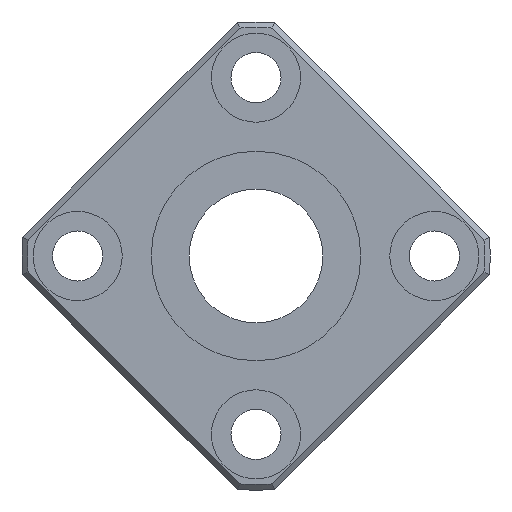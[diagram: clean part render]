
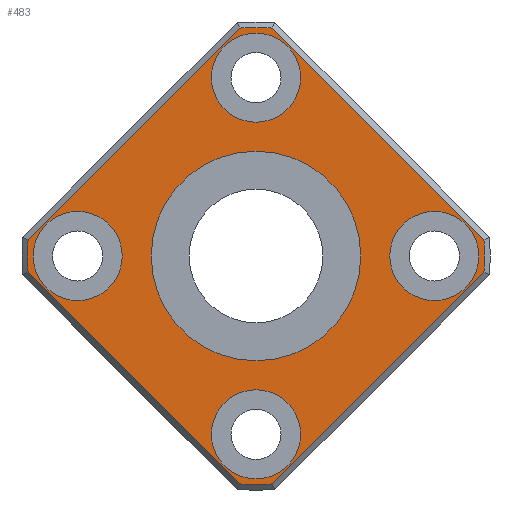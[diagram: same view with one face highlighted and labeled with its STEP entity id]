
A CAD part, left-side view. The second image highlights one B-rep face of the part: STEP entity #483.
In plain terms, the highlighted planar face has unit normal (-1, 0, 0).
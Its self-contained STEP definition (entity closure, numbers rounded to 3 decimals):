
#59=CARTESIAN_POINT('',(0.0,1.473,-20.447));
#60=VERTEX_POINT('',#59);
#68=CARTESIAN_POINT('',(0.0,20.447,-1.473));
#69=VERTEX_POINT('',#68);
#70=CARTESIAN_POINT('',(0.0,1.473,-20.447));
#71=DIRECTION('',(0.0,0.707,0.707));
#72=VECTOR('',#71,26.833);
#73=LINE('',#70,#72);
#74=EDGE_CURVE('',#60,#69,#73,.T.);
#101=CARTESIAN_POINT('',(0.0,20.447,1.473));
#102=VERTEX_POINT('',#101);
#103=CARTESIAN_POINT('',(0.0,0.0,0.0));
#104=DIRECTION('',(1.0,0.0,0.0));
#105=DIRECTION('',(0.0,0.0,1.0));
#106=AXIS2_PLACEMENT_3D('',#103,#104,#105);
#107=CIRCLE('',#106,20.5);
#108=EDGE_CURVE('',#69,#102,#107,.T.);
#134=CARTESIAN_POINT('',(0.0,1.473,20.447));
#135=VERTEX_POINT('',#134);
#136=CARTESIAN_POINT('',(0.0,20.447,1.473));
#137=DIRECTION('',(0.0,-0.707,0.707));
#138=VECTOR('',#137,26.833);
#139=LINE('',#136,#138);
#140=EDGE_CURVE('',#102,#135,#139,.T.);
#167=CARTESIAN_POINT('',(0.0,-1.473,20.447));
#168=VERTEX_POINT('',#167);
#169=CARTESIAN_POINT('',(0.0,0.0,0.0));
#170=DIRECTION('',(1.0,0.0,0.0));
#171=DIRECTION('',(0.0,0.0,1.0));
#172=AXIS2_PLACEMENT_3D('',#169,#170,#171);
#173=CIRCLE('',#172,20.5);
#174=EDGE_CURVE('',#135,#168,#173,.T.);
#200=CARTESIAN_POINT('',(0.0,-20.447,1.473));
#201=VERTEX_POINT('',#200);
#202=CARTESIAN_POINT('',(0.0,-1.473,20.447));
#203=DIRECTION('',(0.0,-0.707,-0.707));
#204=VECTOR('',#203,26.833);
#205=LINE('',#202,#204);
#206=EDGE_CURVE('',#168,#201,#205,.T.);
#233=CARTESIAN_POINT('',(0.0,-20.447,-1.473));
#234=VERTEX_POINT('',#233);
#235=CARTESIAN_POINT('',(0.0,0.0,0.0));
#236=DIRECTION('',(1.0,0.0,0.0));
#237=DIRECTION('',(0.0,0.0,1.0));
#238=AXIS2_PLACEMENT_3D('',#235,#236,#237);
#239=CIRCLE('',#238,20.5);
#240=EDGE_CURVE('',#201,#234,#239,.T.);
#266=CARTESIAN_POINT('',(0.0,-1.473,-20.447));
#267=VERTEX_POINT('',#266);
#268=CARTESIAN_POINT('',(0.0,-20.447,-1.473));
#269=DIRECTION('',(0.0,0.707,-0.707));
#270=VECTOR('',#269,26.833);
#271=LINE('',#268,#270);
#272=EDGE_CURVE('',#234,#267,#271,.T.);
#297=CARTESIAN_POINT('',(0.0,0.0,0.0));
#298=DIRECTION('',(1.0,0.0,0.0));
#299=DIRECTION('',(0.0,0.0,-1.0));
#300=AXIS2_PLACEMENT_3D('',#297,#298,#299);
#301=CIRCLE('',#300,20.5);
#302=EDGE_CURVE('',#267,#60,#301,.T.);
#413=CARTESIAN_POINT('',(0.0,0.0,9.95));
#414=DIRECTION('',(-1.0,0.0,0.0));
#415=DIRECTION('',(0.0,0.0,1.0));
#416=AXIS2_PLACEMENT_3D('',#413,#414,#415);
#417=PLANE('',#416);
#418=ORIENTED_EDGE('',*,*,#74,.F.);
#419=ORIENTED_EDGE('',*,*,#302,.F.);
#420=ORIENTED_EDGE('',*,*,#272,.F.);
#421=ORIENTED_EDGE('',*,*,#240,.F.);
#422=ORIENTED_EDGE('',*,*,#206,.F.);
#423=ORIENTED_EDGE('',*,*,#174,.F.);
#424=ORIENTED_EDGE('',*,*,#140,.F.);
#425=ORIENTED_EDGE('',*,*,#108,.F.);
#426=EDGE_LOOP('',(#418,#419,#420,#421,#422,#423,#424,#425));
#427=FACE_OUTER_BOUND('',#426,.T.);
#428=CARTESIAN_POINT('',(0.0,0.0,9.4));
#429=VERTEX_POINT('',#428);
#430=CARTESIAN_POINT('',(0.0,0.0,0.0));
#431=DIRECTION('',(-1.0,0.0,0.0));
#432=DIRECTION('',(0.0,0.0,1.0));
#433=AXIS2_PLACEMENT_3D('',#430,#431,#432);
#434=CIRCLE('',#433,9.4);
#435=EDGE_CURVE('',#429,#429,#434,.T.);
#436=ORIENTED_EDGE('',*,*,#435,.F.);
#437=EDGE_LOOP('',(#436));
#438=FACE_BOUND('',#437,.T.);
#439=CARTESIAN_POINT('',(0.0,-12.,0.));
#440=VERTEX_POINT('',#439);
#441=CARTESIAN_POINT('',(0.0,-16.0,0.));
#442=DIRECTION('',(1.0,0.0,0.0));
#443=DIRECTION('',(0.0,1.0,0.0));
#444=AXIS2_PLACEMENT_3D('',#441,#442,#443);
#445=CIRCLE('',#444,4.0);
#446=EDGE_CURVE('',#440,#440,#445,.T.);
#447=ORIENTED_EDGE('',*,*,#446,.T.);
#448=EDGE_LOOP('',(#447));
#449=FACE_BOUND('',#448,.T.);
#450=CARTESIAN_POINT('',(0.0,20.0,0.));
#451=VERTEX_POINT('',#450);
#452=CARTESIAN_POINT('',(0.0,16.0,0.));
#453=DIRECTION('',(1.0,0.0,0.0));
#454=DIRECTION('',(0.0,1.0,0.0));
#455=AXIS2_PLACEMENT_3D('',#452,#453,#454);
#456=CIRCLE('',#455,4.0);
#457=EDGE_CURVE('',#451,#451,#456,.T.);
#458=ORIENTED_EDGE('',*,*,#457,.T.);
#459=EDGE_LOOP('',(#458));
#460=FACE_BOUND('',#459,.T.);
#461=CARTESIAN_POINT('',(0.0,4.,16.0));
#462=VERTEX_POINT('',#461);
#463=CARTESIAN_POINT('',(0.0,0.,16.0));
#464=DIRECTION('',(1.0,0.0,0.0));
#465=DIRECTION('',(0.0,1.0,0.0));
#466=AXIS2_PLACEMENT_3D('',#463,#464,#465);
#467=CIRCLE('',#466,4.0);
#468=EDGE_CURVE('',#462,#462,#467,.T.);
#469=ORIENTED_EDGE('',*,*,#468,.T.);
#470=EDGE_LOOP('',(#469));
#471=FACE_BOUND('',#470,.T.);
#472=CARTESIAN_POINT('',(0.0,4.,-16.0));
#473=VERTEX_POINT('',#472);
#474=CARTESIAN_POINT('',(0.0,0.,-16.0));
#475=DIRECTION('',(1.0,0.0,0.0));
#476=DIRECTION('',(0.0,1.0,0.0));
#477=AXIS2_PLACEMENT_3D('',#474,#475,#476);
#478=CIRCLE('',#477,4.0);
#479=EDGE_CURVE('',#473,#473,#478,.T.);
#480=ORIENTED_EDGE('',*,*,#479,.T.);
#481=EDGE_LOOP('',(#480));
#482=FACE_BOUND('',#481,.T.);
#483=ADVANCED_FACE('',(#427,#438,#449,#460,#471,#482),#417,.T.);
